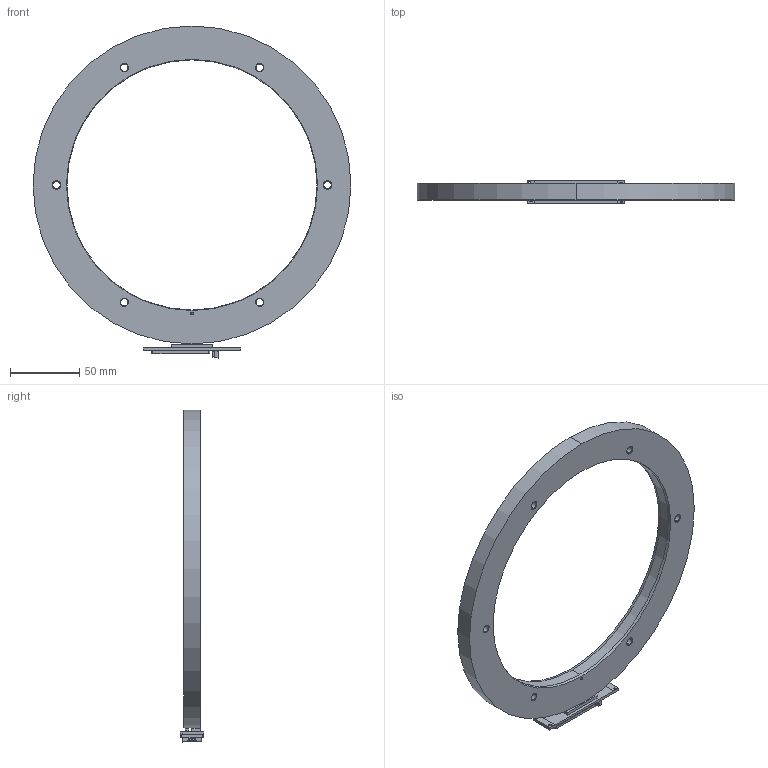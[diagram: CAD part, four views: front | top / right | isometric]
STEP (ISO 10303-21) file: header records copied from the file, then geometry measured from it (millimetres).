
FILE_DESCRIPTION (( 'STEP AP214' ), '1' );
FILE_NAME ('DBRxVx_SAR229_exposed.STEP', '2024-02-02T13:19:14', ( '' ), ( '' ), 'SwSTEP 2.0', 'SolidWorks 2022', '' );
FILE_SCHEMA (( 'AUTOMOTIVE_DESIGN' ));
Length unit declared in the file: millimetre
Products named in the file (1): DBRxVx_SAR229_exposed
Bounding box: 228.8 x 17 x 238.94 mm (x, y, z)
Volume: 188018.7 mm3; surface area: 51799.6 mm2
Topology: 2 solids, 2 shells, 1683 faces, 4617 edges, 3069 vertices
Faces by surface type: plane 1324, bspline 202, cylinder 113, cone 40, sphere 4
Entity records: 82472 total; most frequent: CARTESIAN_POINT 26249, ORIENTED_EDGE 9224, DIRECTION 5356, EDGE_CURVE 4612, VERTEX_POINT 3069, B_SPLINE_CURVE_WITH_KNOTS 2364, VECTOR 2104, LINE 2104
